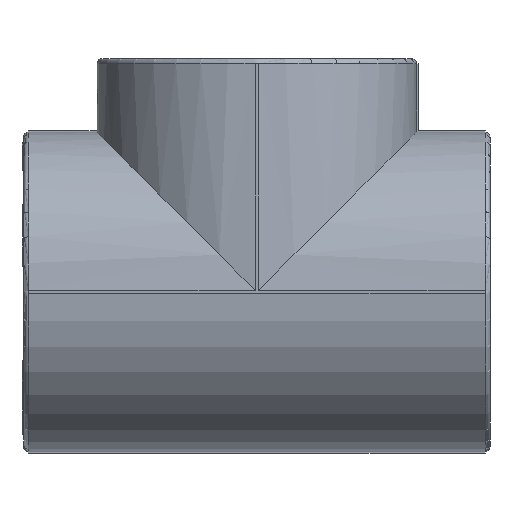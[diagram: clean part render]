
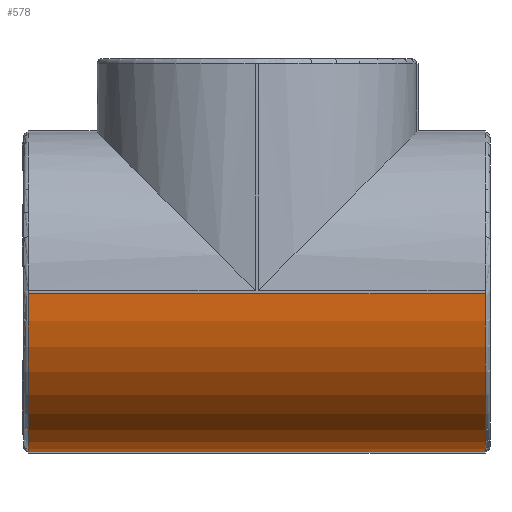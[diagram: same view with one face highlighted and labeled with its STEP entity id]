
A CAD part, left-side view. The second image highlights one B-rep face of the part: STEP entity #578.
In plain terms, the highlighted cylindrical face has radius 50 mm (diameter 100 mm), a partial arc.
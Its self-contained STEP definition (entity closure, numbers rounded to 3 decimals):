
#578=ADVANCED_FACE('',(#4524),#4526,.T.);
#4524=FACE_BOUND('',#4525,.T.);
#4525=EDGE_LOOP('',(#11792,#11793,#11794,#11795));
#4526=CYLINDRICAL_SURFACE('',#4527,50.);
#4527=AXIS2_PLACEMENT_3D('',#4528,#4529,#4530);
#4528=CARTESIAN_POINT('',(0.,-73.,0.));
#4529=DIRECTION('',(0.,1.,0.));
#4530=DIRECTION('',(-1.,0.,0.));
#11792=ORIENTED_EDGE('',*,*,#17004,.F.);
#11793=ORIENTED_EDGE('',*,*,#17005,.T.);
#11794=ORIENTED_EDGE('',*,*,#17006,.F.);
#11795=ORIENTED_EDGE('',*,*,#16979,.F.);
#16979=EDGE_CURVE('',#20858,#20860,#20861,.T.);
#17004=EDGE_CURVE('',#20903,#20858,#20904,.T.);
#17005=EDGE_CURVE('',#20903,#20905,#20906,.T.);
#17006=EDGE_CURVE('',#20860,#20905,#20907,.F.);
#20858=VERTEX_POINT('',#28626);
#20860=VERTEX_POINT('',#28631);
#20861=CIRCLE('',#28632,50.);
#20903=VERTEX_POINT('',#28734);
#20904=LINE('',#28735,#28736);
#20905=VERTEX_POINT('',#28738);
#20906=CIRCLE('',#28739,50.);
#20907=LINE('',#28743,#28744);
#28626=CARTESIAN_POINT('',(-0.5,71.5,-49.997));
#28631=CARTESIAN_POINT('',(-49.997,71.5,-0.5));
#28632=AXIS2_PLACEMENT_3D('',#28633,#28634,#28635);
#28633=CARTESIAN_POINT('',(0.,71.5,0.));
#28634=DIRECTION('',(0.,1.,0.));
#28635=DIRECTION('',(-0.01,0.,-1.));
#28734=CARTESIAN_POINT('',(-0.5,-71.5,-49.997));
#28735=CARTESIAN_POINT('',(-0.5,-71.5,-49.997));
#28736=VECTOR('',#28737,1.);
#28737=DIRECTION('',(0.,1.,0.));
#28738=CARTESIAN_POINT('',(-49.997,-71.5,-0.5));
#28739=AXIS2_PLACEMENT_3D('',#28740,#28741,#28742);
#28740=CARTESIAN_POINT('',(0.,-71.5,0.));
#28741=DIRECTION('',(0.,1.,0.));
#28742=DIRECTION('',(-0.01,0.,-1.));
#28743=CARTESIAN_POINT('',(-49.997,-71.5,-0.5));
#28744=VECTOR('',#28745,1.);
#28745=DIRECTION('',(0.,1.,0.));
